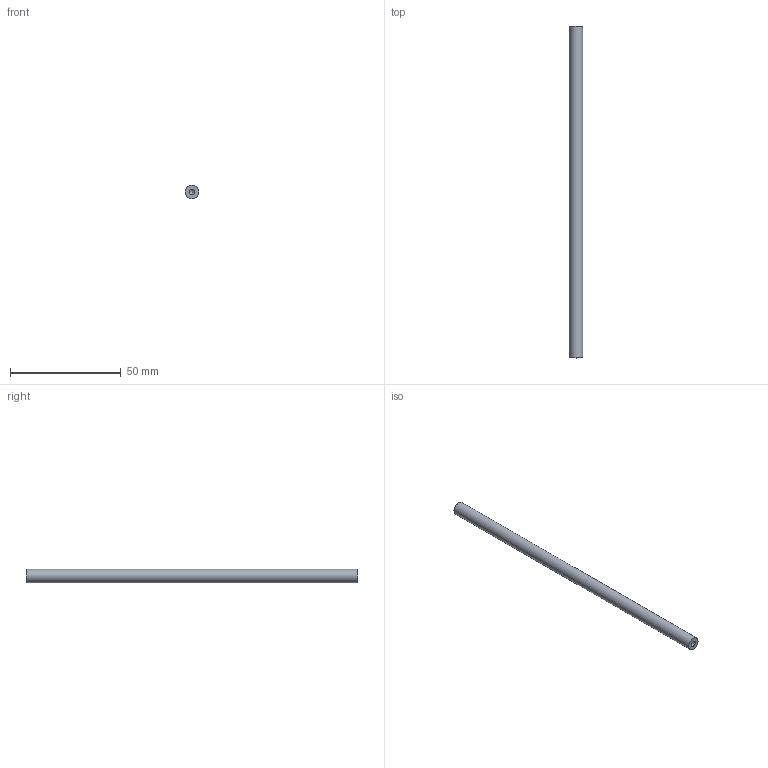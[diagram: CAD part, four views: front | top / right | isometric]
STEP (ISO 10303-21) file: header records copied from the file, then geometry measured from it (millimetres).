
FILE_DESCRIPTION(/* description */ (''),/* implementation_level */ '2;1');
FILE_NAME(/* name */ 'Y:\2_OpticalHard\08_Cage Systems\C30ｼﾘｰｽﾞ\C30-RO-6\C30-RO-6-150.stp',/* time_stamp */ '2017-05-09T11:09:00+09:00',/* author */ ('e.nonaka'),/* organization */ (''),/* preprocessor_version */ 'ST-DEVELOPER v16.1',/* originating_system */ 'Autodesk Inventor 2016',/* authorisation */ '');
FILE_SCHEMA (('AUTOMOTIVE_DESIGN { 1 0 10303 214 3 1 1 }'));
Length unit declared in the file: millimetre
Products named in the file (1): C30RO6150-M03-17001
Bounding box: 6 x 150 x 6 mm (x, y, z)
Volume: 4160.2 mm3; surface area: 3011.3 mm2
Topology: 1 solids, 1 shells, 7 faces, 13 edges, 8 vertices
Faces by surface type: cylinder 3, cone 2, plane 2
Full cylindrical faces by diameter (mm): 2.5 x2, 6 x1
Entity records: 158 total; most frequent: DIRECTION 28, CARTESIAN_POINT 20, AXIS2_PLACEMENT_3D 14, EDGE_LOOP 12, ORIENTED_EDGE 12, FACE_OUTER_BOUND 7, ADVANCED_FACE 7, CIRCLE 6
